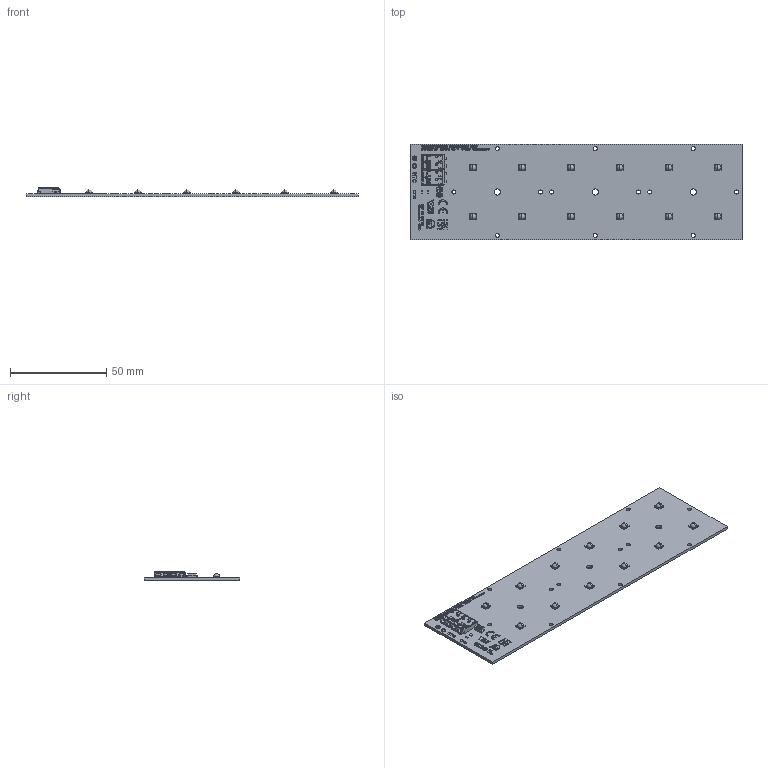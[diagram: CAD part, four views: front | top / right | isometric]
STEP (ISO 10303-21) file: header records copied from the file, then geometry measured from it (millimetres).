
FILE_DESCRIPTION(('Creo Elements/Direct Modeling STEP Export'),'2;1');
FILE_NAME('3D-Model_MSP SC 2R_Z15_3535_T_12_yzz G5.stp','2025-06-18T11:21:04',(''),(''),'PTC Creo Elements/Direct Modeling STEP processor for AP214 (Solid Model)','PTC Creo Elements/Direct Modeling 19.0E 27-Jun-2016 (C) Parametric Technology GmbH','');
FILE_SCHEMA(('AUTOMOTIVE_DESIGN { 1 0 10303 214 1 1 1 1 }'));
Length unit declared in the file: millimetre
Products named in the file (210): p1; 2500-00565C_1.PRT; 2500-00565C-BT_1_1.PRT; 2500-00565C-BT_1_2.PRT; 2500-00565C-BT_1_3.PRT; 2500-00565C-BT_1.ASM; 2500-00565C-SBN_1.PRT; 2500-00565C-SB_1.PRT; 2500-00565C_ASM_1.ASM; 2610-00066-DOME_1.PRT; 2610-00066_ASM_1.ASM; XLAMP_XP-G4.STEP; SMA__DO-214AC_.prt; SMA__DO-214AC_.STEP; Print.28; Print.29; Print.27; Print.24; Print.20; Print.23; Print.22; Print.26; Print.30; Print.25; Print.21; Print.8; Print.7; Print.6; Print.91; Print.102; Print.87; Print.98; Print.107; Print.90; Print.85; Print.101; Print.96; Print.105; Print.94; Print.95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
Assembly tree (205 placements, depth 5):
  p1
  XLAMP_XP-G4.STEP
    2610-00066_ASM_1.ASM
      2610-00066-DOME_1.PRT
      2500-00565C_ASM_1.ASM
        2500-00565C-SB_1.PRT
        2500-00565C-SBN_1.PRT
        2500-00565C-BT_1.ASM
          2500-00565C-BT_1_3.PRT
          2500-00565C-BT_1_2.PRT
          2500-00565C-BT_1_1.PRT
        2500-00565C_1.PRT
  SMA__DO-214AC_.STEP
    SMA__DO-214AC_.prt
  Print_Plate
    Print.55
    Print.51
    Print.56
    Print.53
    Print.57
    Print.60
    Print.59
    Print.61
    Print.52
    Print.58
    Print.54
    Print.40
    Print.49
    Print.50
    Print.43
    Print.44
    Print.45
    Print.47
    Print.46
    Print.48
    Print.41
    Print.42
    Print
    Print.1
    Print.3
    Print.2
    Print.4
    Print.5
    Print.9
    Print.12
    Print.18
    Print.19
    Print.10
    Print.16
    Print.15
    Print.11
    Print.17
    Print.14
    Print.13
    Print.112
    Print.108
    Print.110
    Print.109
    Print.111
    Print.67
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Bounding box: 172.2 x 49.5 x 4.95 mm (x, y, z)
Volume: 12909.8 mm3; surface area: 19793.4 mm2
Topology: 201 solids, 203 shells, 4286 faces, 11221 edges, 7350 vertices
Faces by surface type: plane 2862, cylinder 947, bspline 198, cone 108, sphere 60, torus 56, extrusion 55
Entity records: 136206 total; most frequent: CARTESIAN_POINT 24993, ORIENTED_EDGE 16984, DIRECTION 16182, EDGE_CURVE 8493, VECTOR 6480, LINE 6425, VERTEX_POINT 5594, AXIS2_PLACEMENT_3D 4851
